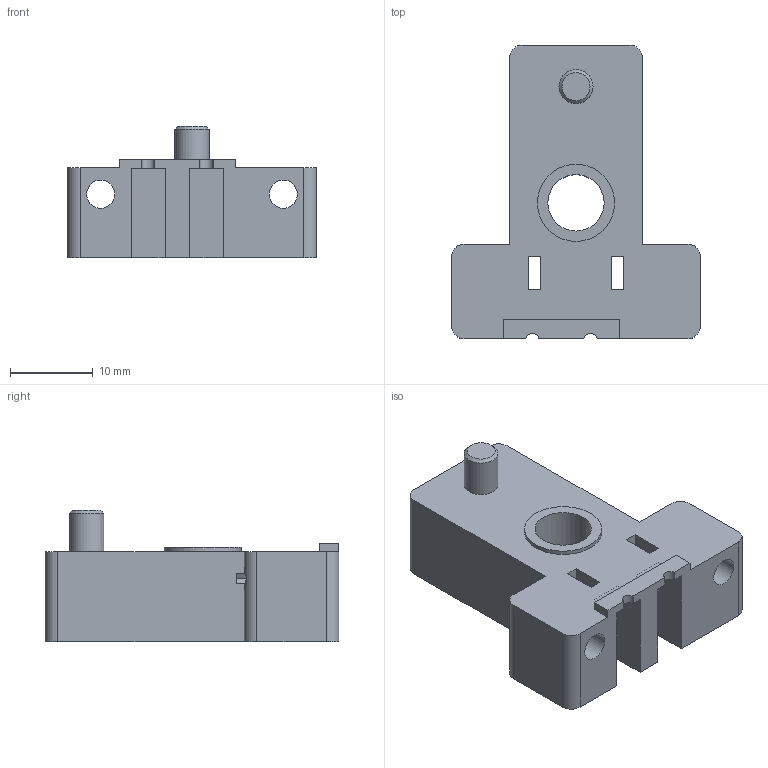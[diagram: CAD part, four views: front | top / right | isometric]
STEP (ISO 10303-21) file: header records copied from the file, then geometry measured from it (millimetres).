
FILE_DESCRIPTION(('Open CASCADE Model'),'2;1');
FILE_NAME('Open CASCADE Shape Model','2026-10-30T11:48:03',('Author'),( 'Open CASCADE'),'Open CASCADE STEP processor 7.9','Open CASCADE 7.9' ,'Unknown');
FILE_SCHEMA(('AUTOMOTIVE_DESIGN { 1 0 10303 214 1 1 1 1 }'));
Length unit declared in the file: millimetre
Products named in the file (1): Open CASCADE STEP translator 7.9 1
Bounding box: 30 x 35.37 x 15.88 mm (x, y, z)
Volume: 6782.4 mm3; surface area: 3747.1 mm2
Topology: 1 solids, 1 shells, 66 faces, 185 edges, 123 vertices
Faces by surface type: plane 52, cylinder 13, cone 1
Full cylindrical faces by diameter (mm): 3.4 x2, 4.1 x1, 6.8 x1, 9.3 x1
Entity records: 4495 total; most frequent: CARTESIAN_POINT 963, DIRECTION 592, LINE 380, VECTOR 380, ORIENTED_EDGE 370, PCURVE 370, DEFINITIONAL_REPRESENTATION 370, EDGE_CURVE 185
